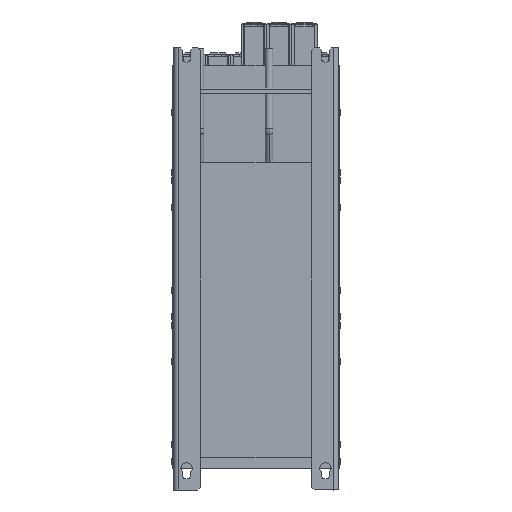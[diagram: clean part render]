
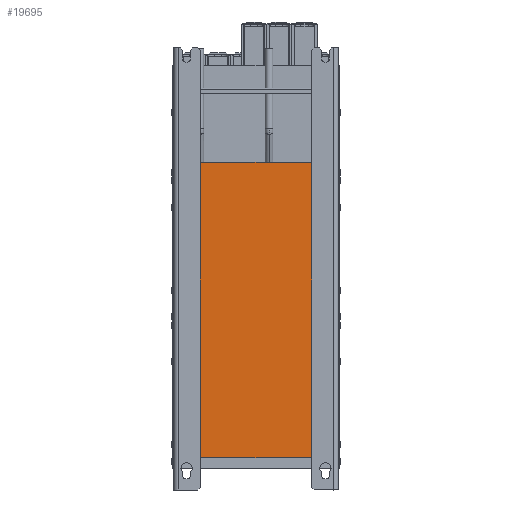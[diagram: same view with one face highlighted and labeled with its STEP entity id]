
A CAD part, front view. The second image highlights one B-rep face of the part: STEP entity #19695.
In plain terms, the highlighted planar face has unit normal (0, -1, 0).
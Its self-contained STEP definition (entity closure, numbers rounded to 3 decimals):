
#760 = VECTOR ( 'NONE', #6941, 1000. ) ;
#2715 = VECTOR ( 'NONE', #26348, 1000. ) ;
#3844 = CARTESIAN_POINT ( 'NONE',  ( 159., 0., 0. ) ) ;
#4803 = FACE_OUTER_BOUND ( 'NONE', #45391, .T. ) ;
#5698 = PLANE ( 'NONE',  #17309 ) ;
#6941 = DIRECTION ( 'NONE',  ( 0., 0., 1. ) ) ;
#9013 = LINE ( 'NONE', #83623, #67092 ) ;
#12187 = CARTESIAN_POINT ( 'NONE',  ( -159., 0., 0. ) ) ;
#14054 = ORIENTED_EDGE ( 'NONE', *, *, #40828, .T. ) ;
#17309 = AXIS2_PLACEMENT_3D ( 'NONE', #53181, #85621, #80290 ) ;
#19695 = ADVANCED_FACE ( 'NONE', ( #4803 ), #5698, .F. ) ;
#20911 = VERTEX_POINT ( 'NONE', #3844 ) ;
#21404 = LINE ( 'NONE', #27219, #2715 ) ;
#24057 = ORIENTED_EDGE ( 'NONE', *, *, #77997, .T. ) ;
#26348 = DIRECTION ( 'NONE',  ( -1., 0., 0. ) ) ;
#26512 = CARTESIAN_POINT ( 'NONE',  ( 159., 0., 912.116 ) ) ;
#26848 = EDGE_CURVE ( 'NONE', #38533, #20911, #39580, .T. ) ;
#27219 = CARTESIAN_POINT ( 'NONE',  ( 163., 0., 585. ) ) ;
#27383 = ORIENTED_EDGE ( 'NONE', *, *, #71813, .T. ) ;
#29887 = DIRECTION ( 'NONE',  ( 0., 0., -1. ) ) ;
#32813 = VERTEX_POINT ( 'NONE', #82360 ) ;
#38533 = VERTEX_POINT ( 'NONE', #12187 ) ;
#39580 = LINE ( 'NONE', #65753, #57920 ) ;
#40828 = EDGE_CURVE ( 'NONE', #20911, #45509, #41101, .T. ) ;
#41101 = LINE ( 'NONE', #26512, #760 ) ;
#45391 = EDGE_LOOP ( 'NONE', ( #57430, #14054, #27383, #24057 ) ) ;
#45509 = VERTEX_POINT ( 'NONE', #77131 ) ;
#53181 = CARTESIAN_POINT ( 'NONE',  ( 163., 0., 912.116 ) ) ;
#53773 = DIRECTION ( 'NONE',  ( 1., 0., 0. ) ) ;
#57430 = ORIENTED_EDGE ( 'NONE', *, *, #26848, .T. ) ;
#57920 = VECTOR ( 'NONE', #53773, 1000. ) ;
#65753 = CARTESIAN_POINT ( 'NONE',  ( 163., 0., 0. ) ) ;
#67092 = VECTOR ( 'NONE', #29887, 1000. ) ;
#71813 = EDGE_CURVE ( 'NONE', #45509, #32813, #21404, .T. ) ;
#77131 = CARTESIAN_POINT ( 'NONE',  ( 159., 0., 585. ) ) ;
#77997 = EDGE_CURVE ( 'NONE', #32813, #38533, #9013, .T. ) ;
#80290 = DIRECTION ( 'NONE',  ( -1., 0., 0. ) ) ;
#82360 = CARTESIAN_POINT ( 'NONE',  ( -159., 0., 585. ) ) ;
#83623 = CARTESIAN_POINT ( 'NONE',  ( -159., 0., 582.5 ) ) ;
#85621 = DIRECTION ( 'NONE',  ( 0., 1., 0. ) ) ;
